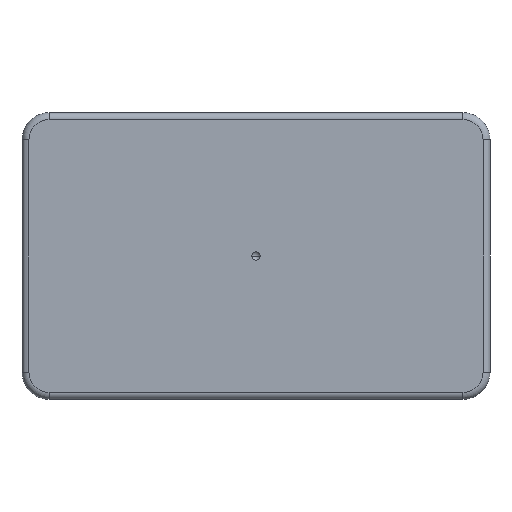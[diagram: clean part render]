
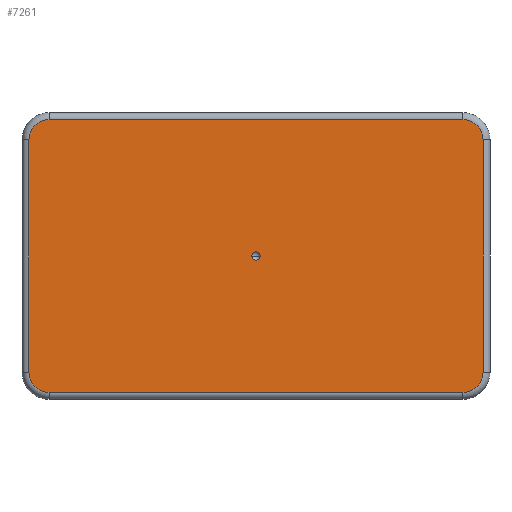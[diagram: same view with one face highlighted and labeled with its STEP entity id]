
A CAD part, front view. The second image highlights one B-rep face of the part: STEP entity #7261.
In plain terms, the highlighted planar face has unit normal (0, -1, 0).
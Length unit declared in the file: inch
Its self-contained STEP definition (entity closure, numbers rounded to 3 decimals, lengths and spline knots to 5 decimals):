
#76 = CARTESIAN_POINT ( 'NONE',  ( -3.7135, -3.01, 2.44748 ) ) ;
#91 = CARTESIAN_POINT ( 'NONE',  ( 0., -3.01, 0. ) ) ;
#92 = DIRECTION ( 'NONE',  ( -1., 0., 0. ) ) ;
#93 = CARTESIAN_POINT ( 'NONE',  ( 3.7135, -3.01, -2.086 ) ) ;
#95 = DIRECTION ( 'NONE',  ( 0., -1., 0. ) ) ;
#96 = DIRECTION ( 'NONE',  ( 0., 0., -1. ) ) ;
#97 = CARTESIAN_POINT ( 'NONE',  ( 3.7135, -3.01, 2.086 ) ) ;
#107 = CARTESIAN_POINT ( 'NONE',  ( 4.07498, -3.01, 2.086 ) ) ;
#108 = DIRECTION ( 'NONE',  ( 0., 0., 1. ) ) ;
#109 = CARTESIAN_POINT ( 'NONE',  ( -3.7135, -3.01, 2.086 ) ) ;
#110 = DIRECTION ( 'NONE',  ( 0., -1., 0. ) ) ;
#111 = DIRECTION ( 'NONE',  ( 0., 0., -1. ) ) ;
#112 = CARTESIAN_POINT ( 'NONE',  ( -3.7135, -3.01, -2.086 ) ) ;
#113 = DIRECTION ( 'NONE',  ( 0., 1., 0. ) ) ;
#114 = DIRECTION ( 'NONE',  ( -1., 0., 0. ) ) ;
#115 = CARTESIAN_POINT ( 'NONE',  ( 3.7135, -3.01, -2.44748 ) ) ;
#116 = DIRECTION ( 'NONE',  ( 1., 0., 0. ) ) ;
#118 = DIRECTION ( 'NONE',  ( 0., -1., 0. ) ) ;
#119 = DIRECTION ( 'NONE',  ( 0., 0., -1. ) ) ;
#120 = CARTESIAN_POINT ( 'NONE',  ( -4.07498, -3.01, -2.086 ) ) ;
#121 = DIRECTION ( 'NONE',  ( 0., 0., -1. ) ) ;
#123 = DIRECTION ( 'NONE',  ( 0., -1., 0. ) ) ;
#124 = DIRECTION ( 'NONE',  ( 0., 0., -1. ) ) ;
#2633 = CARTESIAN_POINT ( 'NONE',  ( 0., -3.01, 0. ) ) ;
#2634 = DIRECTION ( 'NONE',  ( 0., 1., 0. ) ) ;
#2635 = DIRECTION ( 'NONE',  ( -1., 0., 0. ) ) ;
#3908 = AXIS2_PLACEMENT_3D ( 'NONE', #2633, #2634, #2635 ) ;
#4102 = AXIS2_PLACEMENT_3D ( 'NONE', #93, #95, #96 ) ;
#4107 = AXIS2_PLACEMENT_3D ( 'NONE', #97, #110, #111 ) ;
#4109 = AXIS2_PLACEMENT_3D ( 'NONE', #91, #113, #114 ) ;
#4113 = AXIS2_PLACEMENT_3D ( 'NONE', #109, #118, #119 ) ;
#4115 = AXIS2_PLACEMENT_3D ( 'NONE', #112, #123, #124 ) ;
#4533 = CIRCLE ( 'NONE', #3908, 0.07502 ) ;
#4871 = VECTOR ( 'NONE', #92, 39.37008 ) ;
#4873 = LINE ( 'NONE', #76, #4871 ) ;
#4875 = LINE ( 'NONE', #107, #4876 ) ;
#4876 = VECTOR ( 'NONE', #108, 39.37008 ) ;
#4877 = LINE ( 'NONE', #115, #4880 ) ;
#4878 = CIRCLE ( 'NONE', #4102, 0.36148 ) ;
#4879 = LINE ( 'NONE', #120, #4882 ) ;
#4880 = VECTOR ( 'NONE', #116, 39.37008 ) ;
#4881 = CIRCLE ( 'NONE', #4107, 0.36148 ) ;
#4882 = VECTOR ( 'NONE', #121, 39.37008 ) ;
#4883 = CIRCLE ( 'NONE', #4109, 0.07502 ) ;
#4886 = CIRCLE ( 'NONE', #4113, 0.36148 ) ;
#4888 = CIRCLE ( 'NONE', #4115, 0.36148 ) ;
#7261 = ADVANCED_FACE ( 'NONE', ( #14153, #14149 ), #9807, .T. ) ;
#8847 = VERTEX_POINT ( 'NONE', #9995 ) ;
#8854 = VERTEX_POINT ( 'NONE', #10002 ) ;
#8915 = VERTEX_POINT ( 'NONE', #10063 ) ;
#8916 = VERTEX_POINT ( 'NONE', #10064 ) ;
#8917 = VERTEX_POINT ( 'NONE', #10065 ) ;
#8918 = VERTEX_POINT ( 'NONE', #10066 ) ;
#8919 = VERTEX_POINT ( 'NONE', #10067 ) ;
#8920 = VERTEX_POINT ( 'NONE', #10068 ) ;
#8921 = VERTEX_POINT ( 'NONE', #10069 ) ;
#8922 = VERTEX_POINT ( 'NONE', #10070 ) ;
#9801 = CARTESIAN_POINT ( 'NONE',  ( -3.7135, -3.01, 2.086 ) ) ;
#9807 = PLANE ( 'NONE',  #14868 ) ;
#9808 = DIRECTION ( 'NONE',  ( 0., -1., 0. ) ) ;
#9809 = DIRECTION ( 'NONE',  ( 0., 0., -1. ) ) ;
#9995 = CARTESIAN_POINT ( 'NONE',  ( -0.07502, -3.01, 0. ) ) ;
#10002 = CARTESIAN_POINT ( 'NONE',  ( 0.07502, -3.01, 0. ) ) ;
#10063 = CARTESIAN_POINT ( 'NONE',  ( -3.7135, -3.01, -2.44748 ) ) ;
#10064 = CARTESIAN_POINT ( 'NONE',  ( 3.7135, -3.01, -2.44748 ) ) ;
#10065 = CARTESIAN_POINT ( 'NONE',  ( 4.07498, -3.01, -2.086 ) ) ;
#10066 = CARTESIAN_POINT ( 'NONE',  ( 4.07498, -3.01, 2.086 ) ) ;
#10067 = CARTESIAN_POINT ( 'NONE',  ( 3.7135, -3.01, 2.44748 ) ) ;
#10068 = CARTESIAN_POINT ( 'NONE',  ( -3.7135, -3.01, 2.44748 ) ) ;
#10069 = CARTESIAN_POINT ( 'NONE',  ( -4.07498, -3.01, 2.086 ) ) ;
#10070 = CARTESIAN_POINT ( 'NONE',  ( -4.07498, -3.01, -2.086 ) ) ;
#11621 = ORIENTED_EDGE ( 'NONE', *, *, #15645, .T. ) ;
#11622 = ORIENTED_EDGE ( 'NONE', *, *, #15424, .T. ) ;
#11623 = ORIENTED_EDGE ( 'NONE', *, *, #15646, .T. ) ;
#11624 = ORIENTED_EDGE ( 'NONE', *, *, #15641, .T. ) ;
#11625 = ORIENTED_EDGE ( 'NONE', *, *, #15643, .T. ) ;
#11626 = ORIENTED_EDGE ( 'NONE', *, *, #15644, .T. ) ;
#11627 = ORIENTED_EDGE ( 'NONE', *, *, #15640, .T. ) ;
#11628 = ORIENTED_EDGE ( 'NONE', *, *, #15647, .T. ) ;
#11629 = ORIENTED_EDGE ( 'NONE', *, *, #15648, .T. ) ;
#11630 = ORIENTED_EDGE ( 'NONE', *, *, #15649, .T. ) ;
#14149 = FACE_OUTER_BOUND ( 'NONE', #16134, .T. ) ;
#14153 = FACE_BOUND ( 'NONE', #16405, .T. ) ;
#14868 = AXIS2_PLACEMENT_3D ( 'NONE', #9801, #9808, #9809 ) ;
#15424 = EDGE_CURVE ( 'NONE', #8847, #8854, #4533, .T. ) ;
#15640 = EDGE_CURVE ( 'NONE', #8919, #8920, #4873, .T. ) ;
#15641 = EDGE_CURVE ( 'NONE', #8916, #8917, #4878, .T. ) ;
#15643 = EDGE_CURVE ( 'NONE', #8917, #8918, #4875, .T. ) ;
#15644 = EDGE_CURVE ( 'NONE', #8918, #8919, #4881, .T. ) ;
#15645 = EDGE_CURVE ( 'NONE', #8854, #8847, #4883, .T. ) ;
#15646 = EDGE_CURVE ( 'NONE', #8915, #8916, #4877, .T. ) ;
#15647 = EDGE_CURVE ( 'NONE', #8920, #8921, #4886, .T. ) ;
#15648 = EDGE_CURVE ( 'NONE', #8921, #8922, #4879, .T. ) ;
#15649 = EDGE_CURVE ( 'NONE', #8922, #8915, #4888, .T. ) ;
#16134 = EDGE_LOOP ( 'NONE', ( #11623, #11624, #11625, #11626, #11627, #11628, #11629, #11630 ) ) ;
#16405 = EDGE_LOOP ( 'NONE', ( #11621, #11622 ) ) ;
